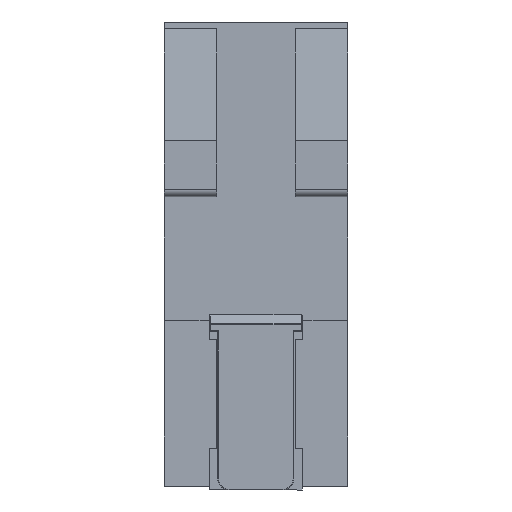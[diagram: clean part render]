
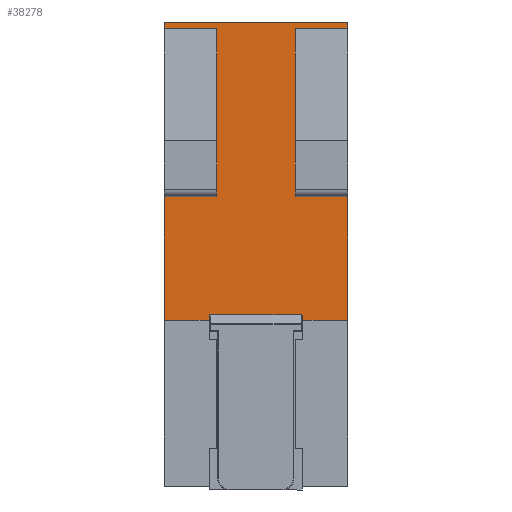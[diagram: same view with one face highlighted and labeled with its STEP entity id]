
A CAD part, left-side view. The second image highlights one B-rep face of the part: STEP entity #38278.
In plain terms, the highlighted planar face has unit normal (-1, 0, 0) as drawn and (1, 0, 0) by its records, which use the part's own axes.
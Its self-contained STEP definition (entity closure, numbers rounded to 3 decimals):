
#1623=PLANE('',#40433);
#3085=FACE_OUTER_BOUND('',#5154,.T.);
#5154=EDGE_LOOP('',(#26928,#26929,#26930,#26931,#26932,#26933,#26934,#26935,
#26936,#26937,#26938,#26939,#26940,#26941,#26942,#26943,#26944,#26945,#26946,
#26947));
#8802=LINE('',#53908,#12983);
#8808=LINE('',#53924,#12989);
#8834=LINE('',#53979,#13015);
#8839=LINE('',#53989,#13020);
#8840=LINE('',#53991,#13021);
#8841=LINE('',#53993,#13022);
#8842=LINE('',#53995,#13023);
#8843=LINE('',#53997,#13024);
#8844=LINE('',#53999,#13025);
#8845=LINE('',#54001,#13026);
#8846=LINE('',#54002,#13027);
#8847=LINE('',#54004,#13028);
#8848=LINE('',#54006,#13029);
#8849=LINE('',#54007,#13030);
#8850=LINE('',#54009,#13031);
#8851=LINE('',#54011,#13032);
#8852=LINE('',#54013,#13033);
#8853=LINE('',#54015,#13034);
#8854=LINE('',#54017,#13035);
#8855=LINE('',#54018,#13036);
#12983=VECTOR('',#43747,36.5);
#12989=VECTOR('',#43757,1.821);
#13015=VECTOR('',#43797,44.3);
#13020=VECTOR('',#43806,8.75);
#13021=VECTOR('',#43807,12.);
#13022=VECTOR('',#43808,36.5);
#13023=VECTOR('',#43809,14.);
#13024=VECTOR('',#43810,41.379);
#13025=VECTOR('',#43811,14.);
#13026=VECTOR('',#43812,1.821);
#13027=VECTOR('',#43813,49.);
#13028=VECTOR('',#43814,14.);
#13029=VECTOR('',#43815,41.379);
#13030=VECTOR('',#43816,14.);
#13031=VECTOR('',#43817,12.);
#13032=VECTOR('',#43818,44.3);
#13033=VECTOR('',#43819,8.75);
#13034=VECTOR('',#43820,3.3);
#13035=VECTOR('',#43821,7.5);
#13036=VECTOR('',#43822,3.3);
#17136=VERTEX_POINT('',#53905);
#17137=VERTEX_POINT('',#53907);
#17144=VERTEX_POINT('',#53921);
#17145=VERTEX_POINT('',#53923);
#17166=VERTEX_POINT('',#53976);
#17167=VERTEX_POINT('',#53978);
#17170=VERTEX_POINT('',#53988);
#17171=VERTEX_POINT('',#53990);
#17172=VERTEX_POINT('',#53992);
#17173=VERTEX_POINT('',#53994);
#17174=VERTEX_POINT('',#53996);
#17175=VERTEX_POINT('',#53998);
#17176=VERTEX_POINT('',#54000);
#17177=VERTEX_POINT('',#54003);
#17178=VERTEX_POINT('',#54005);
#17179=VERTEX_POINT('',#54008);
#17180=VERTEX_POINT('',#54010);
#17181=VERTEX_POINT('',#54012);
#17182=VERTEX_POINT('',#54014);
#17183=VERTEX_POINT('',#54016);
#21030=EDGE_CURVE('',#17136,#17137,#8802,.T.);
#21038=EDGE_CURVE('',#17144,#17145,#8808,.T.);
#21066=EDGE_CURVE('',#17167,#17166,#8834,.T.);
#21071=EDGE_CURVE('',#17167,#17170,#8839,.T.);
#21072=EDGE_CURVE('',#17166,#17171,#8840,.T.);
#21073=EDGE_CURVE('',#17172,#17171,#8841,.T.);
#21074=EDGE_CURVE('',#17173,#17172,#8842,.T.);
#21075=EDGE_CURVE('',#17174,#17173,#8843,.T.);
#21076=EDGE_CURVE('',#17174,#17175,#8844,.T.);
#21077=EDGE_CURVE('',#17176,#17175,#8845,.T.);
#21078=EDGE_CURVE('',#17145,#17176,#8846,.T.);
#21079=EDGE_CURVE('',#17144,#17177,#8847,.T.);
#21080=EDGE_CURVE('',#17178,#17177,#8848,.T.);
#21081=EDGE_CURVE('',#17137,#17178,#8849,.T.);
#21082=EDGE_CURVE('',#17136,#17179,#8850,.T.);
#21083=EDGE_CURVE('',#17180,#17179,#8851,.T.);
#21084=EDGE_CURVE('',#17181,#17180,#8852,.T.);
#21085=EDGE_CURVE('',#17181,#17182,#8853,.T.);
#21086=EDGE_CURVE('',#17182,#17183,#8854,.T.);
#21087=EDGE_CURVE('',#17183,#17170,#8855,.T.);
#26928=ORIENTED_EDGE('',*,*,#21071,.F.);
#26929=ORIENTED_EDGE('',*,*,#21066,.T.);
#26930=ORIENTED_EDGE('',*,*,#21072,.T.);
#26931=ORIENTED_EDGE('',*,*,#21073,.F.);
#26932=ORIENTED_EDGE('',*,*,#21074,.F.);
#26933=ORIENTED_EDGE('',*,*,#21075,.F.);
#26934=ORIENTED_EDGE('',*,*,#21076,.T.);
#26935=ORIENTED_EDGE('',*,*,#21077,.F.);
#26936=ORIENTED_EDGE('',*,*,#21078,.F.);
#26937=ORIENTED_EDGE('',*,*,#21038,.F.);
#26938=ORIENTED_EDGE('',*,*,#21079,.T.);
#26939=ORIENTED_EDGE('',*,*,#21080,.F.);
#26940=ORIENTED_EDGE('',*,*,#21081,.F.);
#26941=ORIENTED_EDGE('',*,*,#21030,.F.);
#26942=ORIENTED_EDGE('',*,*,#21082,.T.);
#26943=ORIENTED_EDGE('',*,*,#21083,.F.);
#26944=ORIENTED_EDGE('',*,*,#21084,.F.);
#26945=ORIENTED_EDGE('',*,*,#21085,.T.);
#26946=ORIENTED_EDGE('',*,*,#21086,.T.);
#26947=ORIENTED_EDGE('',*,*,#21087,.T.);
#38278=ADVANCED_FACE('',(#3085),#1623,.T.);
#40433=AXIS2_PLACEMENT_3D('',#53987,#43804,#43805);
#43747=DIRECTION('',(0.,1.,0.));
#43757=DIRECTION('',(0.,1.,0.));
#43797=DIRECTION('',(0.,1.,0.));
#43804=DIRECTION('center_axis',(1.,0.,0.));
#43805=DIRECTION('ref_axis',(0.,0.,-1.));
#43806=DIRECTION('',(0.,0.,1.));
#43807=DIRECTION('',(0.,0.,-1.));
#43808=DIRECTION('',(0.,-1.,0.));
#43809=DIRECTION('',(0.,0.,-1.));
#43810=DIRECTION('',(0.,-1.,0.));
#43811=DIRECTION('',(0.,0.,-1.));
#43812=DIRECTION('',(0.,-1.,0.));
#43813=DIRECTION('',(0.,0.,-1.));
#43814=DIRECTION('',(0.,0.,-1.));
#43815=DIRECTION('',(0.,1.,0.));
#43816=DIRECTION('',(0.,0.,-1.));
#43817=DIRECTION('',(0.,0.,-1.));
#43818=DIRECTION('',(0.,1.,0.));
#43819=DIRECTION('',(0.,0.,1.));
#43820=DIRECTION('',(0.,1.,0.));
#43821=DIRECTION('',(0.,0.,-1.));
#43822=DIRECTION('',(0.,-1.,0.));
#53905=CARTESIAN_POINT('',(1.5,-17.7,49.));
#53907=CARTESIAN_POINT('',(1.5,18.8,49.));
#53908=CARTESIAN_POINT('',(1.5,-17.7,49.));
#53921=CARTESIAN_POINT('',(1.5,60.179,49.));
#53923=CARTESIAN_POINT('',(1.5,62.,49.));
#53924=CARTESIAN_POINT('',(1.5,60.179,49.));
#53976=CARTESIAN_POINT('',(1.5,-17.7,12.));
#53978=CARTESIAN_POINT('',(1.5,-62.,12.));
#53979=CARTESIAN_POINT('',(1.5,-62.,12.));
#53987=CARTESIAN_POINT('Origin',(1.5,-17.7,49.));
#53988=CARTESIAN_POINT('',(1.5,-62.,20.75));
#53989=CARTESIAN_POINT('',(1.5,-62.,18.5));
#53990=CARTESIAN_POINT('',(1.5,-17.7,0.));
#53991=CARTESIAN_POINT('',(1.5,-17.7,49.));
#53992=CARTESIAN_POINT('',(1.5,18.8,0.));
#53993=CARTESIAN_POINT('',(1.5,-8.85,0.));
#53994=CARTESIAN_POINT('',(1.5,18.8,14.));
#53995=CARTESIAN_POINT('',(1.5,18.8,49.));
#53996=CARTESIAN_POINT('',(1.5,60.179,14.));
#53997=CARTESIAN_POINT('',(1.5,26.52,14.));
#53998=CARTESIAN_POINT('',(1.5,60.179,0.));
#53999=CARTESIAN_POINT('',(1.5,60.179,49.));
#54000=CARTESIAN_POINT('',(1.5,62.,0.));
#54001=CARTESIAN_POINT('',(1.5,30.089,0.));
#54002=CARTESIAN_POINT('',(1.5,62.,49.));
#54003=CARTESIAN_POINT('',(1.5,60.179,35.));
#54004=CARTESIAN_POINT('',(1.5,60.179,49.));
#54005=CARTESIAN_POINT('',(1.5,18.8,35.));
#54006=CARTESIAN_POINT('',(1.5,48.959,35.));
#54007=CARTESIAN_POINT('',(1.5,18.8,49.));
#54008=CARTESIAN_POINT('',(1.5,-17.7,37.));
#54009=CARTESIAN_POINT('',(1.5,-17.7,49.));
#54010=CARTESIAN_POINT('',(1.5,-62.,37.));
#54011=CARTESIAN_POINT('',(1.5,-62.,37.));
#54012=CARTESIAN_POINT('',(1.5,-62.,28.25));
#54013=CARTESIAN_POINT('',(1.5,-62.,18.5));
#54014=CARTESIAN_POINT('',(1.5,-58.7,28.25));
#54015=CARTESIAN_POINT('',(1.5,-39.351,28.25));
#54016=CARTESIAN_POINT('',(1.5,-58.7,20.75));
#54017=CARTESIAN_POINT('',(1.5,-58.7,36.75));
#54018=CARTESIAN_POINT('',(1.5,-39.351,20.75));
